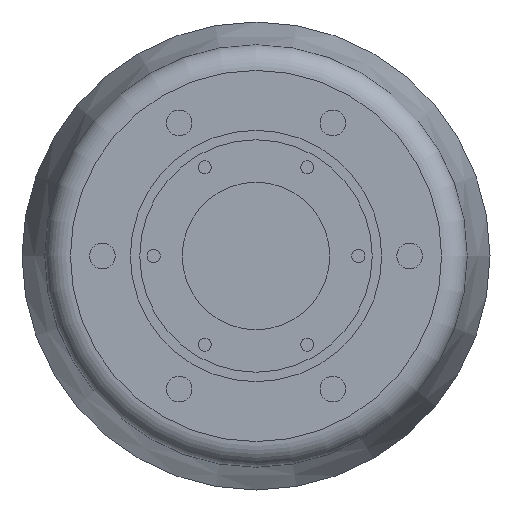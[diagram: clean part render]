
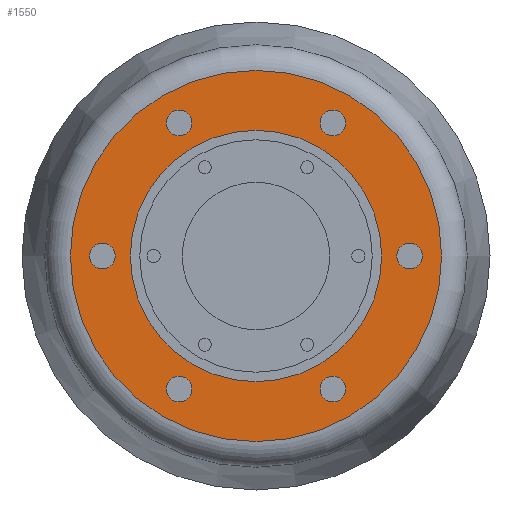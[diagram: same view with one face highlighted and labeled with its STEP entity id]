
A CAD part, front view. The second image highlights one B-rep face of the part: STEP entity #1550.
In plain terms, the highlighted planar face has unit normal (0, -1, 0).
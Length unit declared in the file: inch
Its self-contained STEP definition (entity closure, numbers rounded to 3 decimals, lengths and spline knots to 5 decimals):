
#10 = EDGE_LOOP ( 'NONE', ( #169 ) ) ;
#20 = ORIENTED_EDGE ( 'NONE', *, *, #1482, .F. ) ;
#23 = EDGE_LOOP ( 'NONE', ( #120 ) ) ;
#25 = EDGE_LOOP ( 'NONE', ( #170 ) ) ;
#34 = EDGE_LOOP ( 'NONE', ( #221 ) ) ;
#38 = EDGE_LOOP ( 'NONE', ( #20 ) ) ;
#53 = EDGE_LOOP ( 'NONE', ( #220 ) ) ;
#120 = ORIENTED_EDGE ( 'NONE', *, *, #1404, .F. ) ;
#154 = ORIENTED_EDGE ( 'NONE', *, *, #1338, .T. ) ;
#169 = ORIENTED_EDGE ( 'NONE', *, *, #1419, .F. ) ;
#170 = ORIENTED_EDGE ( 'NONE', *, *, #1464, .F. ) ;
#220 = ORIENTED_EDGE ( 'NONE', *, *, #1459, .F. ) ;
#221 = ORIENTED_EDGE ( 'NONE', *, *, #1382, .F. ) ;
#222 = ORIENTED_EDGE ( 'NONE', *, *, #1439, .T. ) ;
#255 = CARTESIAN_POINT ( 'NONE',  ( 0.75, 0., 1.29904 ) ) ;
#295 = VERTEX_POINT ( 'NONE', #1203 ) ;
#334 = VERTEX_POINT ( 'NONE', #1221 ) ;
#347 = VERTEX_POINT ( 'NONE', #1227 ) ;
#351 = VERTEX_POINT ( 'NONE', #1229 ) ;
#353 = VERTEX_POINT ( 'NONE', #1230 ) ;
#373 = VERTEX_POINT ( 'NONE', #1239 ) ;
#382 = VERTEX_POINT ( 'NONE', #1243 ) ;
#401 = VERTEX_POINT ( 'NONE', #1252 ) ;
#453 = CARTESIAN_POINT ( 'NONE',  ( 1.5, 0., 0. ) ) ;
#454 = DIRECTION ( 'NONE',  ( 0., -1., 0. ) ) ;
#455 = DIRECTION ( 'NONE',  ( 0., 0., -1. ) ) ;
#471 = CARTESIAN_POINT ( 'NONE',  ( 0.75, 0., -1.29904 ) ) ;
#472 = DIRECTION ( 'NONE',  ( 0., -1., 0. ) ) ;
#473 = DIRECTION ( 'NONE',  ( -0.866, 0., -0.5 ) ) ;
#477 = CARTESIAN_POINT ( 'NONE',  ( -1.5, 0., 0. ) ) ;
#478 = DIRECTION ( 'NONE',  ( 0., -1., 0. ) ) ;
#479 = DIRECTION ( 'NONE',  ( 0., 0., 1. ) ) ;
#481 = CARTESIAN_POINT ( 'NONE',  ( 0., 0., 0. ) ) ;
#482 = DIRECTION ( 'NONE',  ( 0., -1., 0. ) ) ;
#483 = DIRECTION ( 'NONE',  ( 0., 0., 1. ) ) ;
#529 = CARTESIAN_POINT ( 'NONE',  ( -0.75, 0., 1.29904 ) ) ;
#530 = DIRECTION ( 'NONE',  ( 0., -1., 0. ) ) ;
#531 = DIRECTION ( 'NONE',  ( 0.866, 0., 0.5 ) ) ;
#541 = CARTESIAN_POINT ( 'NONE',  ( -0.75, 0., -1.29904 ) ) ;
#542 = DIRECTION ( 'NONE',  ( 0., -1., 0. ) ) ;
#543 = DIRECTION ( 'NONE',  ( -0.866, 0., 0.5 ) ) ;
#629 = FACE_BOUND ( 'NONE', #10, .T. ) ;
#630 = FACE_BOUND ( 'NONE', #38, .T. ) ;
#632 = FACE_BOUND ( 'NONE', #23, .T. ) ;
#633 = FACE_BOUND ( 'NONE', #53, .T. ) ;
#634 = FACE_BOUND ( 'NONE', #25, .T. ) ;
#635 = FACE_BOUND ( 'NONE', #34, .T. ) ;
#636 = FACE_BOUND ( 'NONE', #1896, .T. ) ;
#637 = FACE_OUTER_BOUND ( 'NONE', #1929, .T. ) ;
#765 = DIRECTION ( 'NONE',  ( 0., -1., 0. ) ) ;
#766 = DIRECTION ( 'NONE',  ( 0.866, 0., -0.5 ) ) ;
#1003 = DIRECTION ( 'NONE',  ( 0., 1., 0. ) ) ;
#1007 = CARTESIAN_POINT ( 'NONE',  ( -2.0625, 0., 0. ) ) ;
#1008 = PLANE ( 'NONE',  #1674 ) ;
#1009 = DIRECTION ( 'NONE',  ( 0., 0., 1. ) ) ;
#1203 = CARTESIAN_POINT ( 'NONE',  ( 0., 0., 1.227 ) ) ;
#1221 = CARTESIAN_POINT ( 'NONE',  ( 1.5, 0., -0.125 ) ) ;
#1227 = CARTESIAN_POINT ( 'NONE',  ( 0.64175, 0., -1.36154 ) ) ;
#1229 = CARTESIAN_POINT ( 'NONE',  ( -1.5, 0., 0.125 ) ) ;
#1230 = CARTESIAN_POINT ( 'NONE',  ( 0., 0., 1.8125 ) ) ;
#1239 = CARTESIAN_POINT ( 'NONE',  ( -0.64175, 0., 1.36154 ) ) ;
#1243 = CARTESIAN_POINT ( 'NONE',  ( -0.85825, 0., -1.23654 ) ) ;
#1252 = CARTESIAN_POINT ( 'NONE',  ( 0.85825, 0., 1.23654 ) ) ;
#1285 = AXIS2_PLACEMENT_3D ( 'NONE', #541, #542, #543 ) ;
#1297 = AXIS2_PLACEMENT_3D ( 'NONE', #255, #765, #766 ) ;
#1327 = AXIS2_PLACEMENT_3D ( 'NONE', #453, #454, #455 ) ;
#1338 = EDGE_CURVE ( 'NONE', #295, #295, #1989, .T. ) ;
#1371 = AXIS2_PLACEMENT_3D ( 'NONE', #471, #472, #473 ) ;
#1375 = AXIS2_PLACEMENT_3D ( 'NONE', #477, #478, #479 ) ;
#1377 = AXIS2_PLACEMENT_3D ( 'NONE', #481, #482, #483 ) ;
#1382 = EDGE_CURVE ( 'NONE', #334, #334, #2007, .T. ) ;
#1404 = EDGE_CURVE ( 'NONE', #347, #347, #2013, .T. ) ;
#1417 = AXIS2_PLACEMENT_3D ( 'NONE', #529, #530, #531 ) ;
#1419 = EDGE_CURVE ( 'NONE', #351, #351, #2015, .T. ) ;
#1439 = EDGE_CURVE ( 'NONE', #353, #353, #2016, .T. ) ;
#1458 = AXIS2_PLACEMENT_3D ( 'NONE', #1797, #1798, #1799 ) ;
#1459 = EDGE_CURVE ( 'NONE', #373, #373, #2025, .T. ) ;
#1464 = EDGE_CURVE ( 'NONE', #382, #382, #2029, .T. ) ;
#1482 = EDGE_CURVE ( 'NONE', #401, #401, #2038, .T. ) ;
#1550 = ADVANCED_FACE ( 'NONE', ( #632, #634, #629, #633, #630, #635, #636, #637 ), #1008, .F. ) ;
#1674 = AXIS2_PLACEMENT_3D ( 'NONE', #1007, #1003, #1009 ) ;
#1797 = CARTESIAN_POINT ( 'NONE',  ( 0., 0., 0. ) ) ;
#1798 = DIRECTION ( 'NONE',  ( 0., 1., 0. ) ) ;
#1799 = DIRECTION ( 'NONE',  ( 0., 0., 1. ) ) ;
#1896 = EDGE_LOOP ( 'NONE', ( #154 ) ) ;
#1929 = EDGE_LOOP ( 'NONE', ( #222 ) ) ;
#1989 = CIRCLE ( 'NONE', #1458, 1.227 ) ;
#2007 = CIRCLE ( 'NONE', #1327, 0.125 ) ;
#2013 = CIRCLE ( 'NONE', #1371, 0.125 ) ;
#2015 = CIRCLE ( 'NONE', #1375, 0.125 ) ;
#2016 = CIRCLE ( 'NONE', #1377, 1.8125 ) ;
#2025 = CIRCLE ( 'NONE', #1417, 0.125 ) ;
#2029 = CIRCLE ( 'NONE', #1285, 0.125 ) ;
#2038 = CIRCLE ( 'NONE', #1297, 0.125 ) ;
